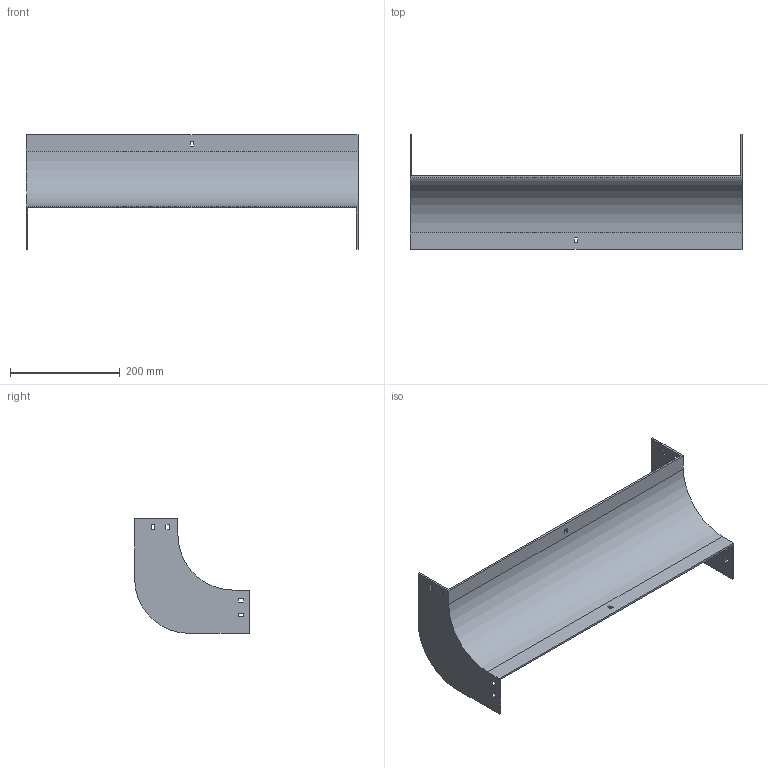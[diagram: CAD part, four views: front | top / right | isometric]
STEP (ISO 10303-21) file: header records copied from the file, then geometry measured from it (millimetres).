
FILE_DESCRIPTION (( 'STEP AP214' ), '1' );
FILE_NAME ('33F1C600.step', '2025-02-21T12:53:22', ( '' ), ( '' ), 'SwSTEP 2.0', 'SolidWorks 2023', '' );
FILE_SCHEMA (( 'AUTOMOTIVE_DESIGN' ));
Length unit declared in the file: millimetre
Products named in the file (1): 33F1C600
Bounding box: 604 x 209 x 209 mm (x, y, z)
Volume: 644429.2 mm3; surface area: 377305.6 mm2
Topology: 1 solids, 1 shells, 58 faces, 168 edges, 112 vertices
Faces by surface type: plane 54, cylinder 4
Entity records: 1943 total; most frequent: CARTESIAN_POINT 339, ORIENTED_EDGE 336, DIRECTION 294, EDGE_CURVE 168, LINE 160, VECTOR 160, VERTEX_POINT 112, EDGE_LOOP 78
